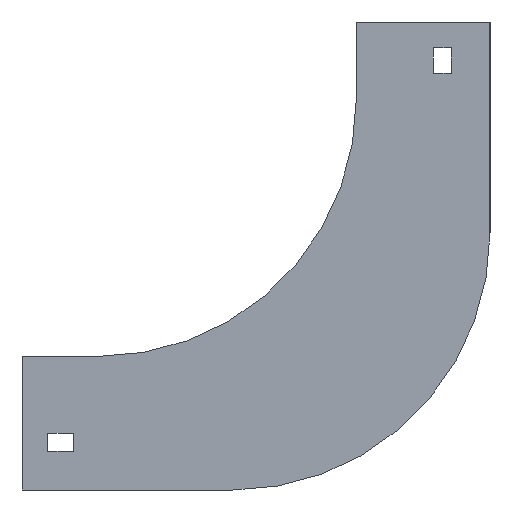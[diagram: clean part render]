
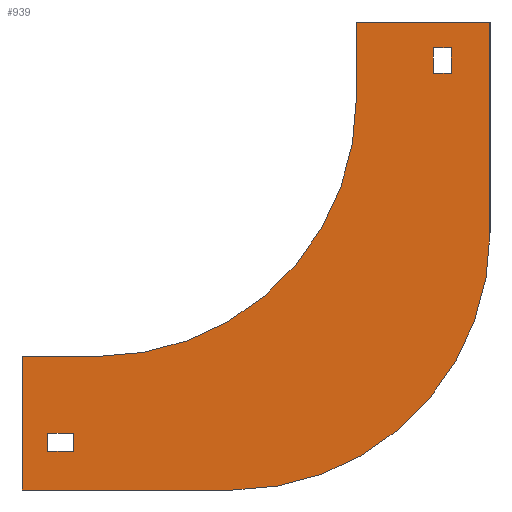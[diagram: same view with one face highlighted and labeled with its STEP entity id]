
A CAD part, left-side view. The second image highlights one B-rep face of the part: STEP entity #939.
In plain terms, the highlighted planar face has unit normal (-1, 0, 0).
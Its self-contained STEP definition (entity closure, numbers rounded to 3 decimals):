
#23 = LINE ( 'NONE', #329, #1182 ) ;
#72 = CARTESIAN_POINT ( 'NONE',  ( -202., -30., -10. ) ) ;
#74 = DIRECTION ( 'NONE',  ( 1., 0., 0. ) ) ;
#76 = EDGE_CURVE ( 'NONE', #1160, #289, #611, .T. ) ;
#78 = DIRECTION ( 'NONE',  ( 0., 0., 1. ) ) ;
#81 = LINE ( 'NONE', #1026, #822 ) ;
#89 = CARTESIAN_POINT ( 'NONE',  ( -202., 110., -160. ) ) ;
#100 = DIRECTION ( 'NONE',  ( 0., -1., 0. ) ) ;
#122 = CARTESIAN_POINT ( 'NONE',  ( -202., 100., -130. ) ) ;
#124 = DIRECTION ( 'NONE',  ( 0., 0., -1. ) ) ;
#132 = ORIENTED_EDGE ( 'NONE', *, *, #555, .F. ) ;
#137 = ORIENTED_EDGE ( 'NONE', *, *, #1293, .F. ) ;
#138 = VERTEX_POINT ( 'NONE', #1038 ) ;
#139 = CARTESIAN_POINT ( 'NONE',  ( -202., 120., -167. ) ) ;
#141 = EDGE_LOOP ( 'NONE', ( #212, #270, #778, #1104 ) ) ;
#159 = LINE ( 'NONE', #72, #258 ) ;
#165 = VERTEX_POINT ( 'NONE', #955 ) ;
#166 = VECTOR ( 'NONE', #100, 1000. ) ;
#178 = DIRECTION ( 'NONE',  ( 0., 1., 0. ) ) ;
#185 = CARTESIAN_POINT ( 'NONE',  ( -202., -30., -10. ) ) ;
#195 = DIRECTION ( 'NONE',  ( 0., 0., -1. ) ) ;
#196 = EDGE_CURVE ( 'NONE', #230, #973, #860, .T. ) ;
#209 = EDGE_CURVE ( 'NONE', #289, #1137, #1046, .T. ) ;
#212 = ORIENTED_EDGE ( 'NONE', *, *, #1199, .F. ) ;
#226 = VECTOR ( 'NONE', #1381, 1000. ) ;
#230 = VERTEX_POINT ( 'NONE', #89 ) ;
#232 = CARTESIAN_POINT ( 'NONE',  ( -202., -37., -20. ) ) ;
#238 = DIRECTION ( 'NONE',  ( 0., 0., 1. ) ) ;
#248 = CARTESIAN_POINT ( 'NONE',  ( -202., 110., -160. ) ) ;
#252 = LINE ( 'NONE', #248, #599 ) ;
#258 = VECTOR ( 'NONE', #1237, 1000. ) ;
#259 = ORIENTED_EDGE ( 'NONE', *, *, #638, .F. ) ;
#263 = LINE ( 'NONE', #1220, #361 ) ;
#264 = CIRCLE ( 'NONE', #650, 100. ) ;
#270 = ORIENTED_EDGE ( 'NONE', *, *, #196, .F. ) ;
#281 = CARTESIAN_POINT ( 'NONE',  ( -202., 0., -30. ) ) ;
#284 = CIRCLE ( 'NONE', #1018, 100. ) ;
#289 = VERTEX_POINT ( 'NONE', #527 ) ;
#299 = DIRECTION ( 'NONE',  ( 0., 0., -1. ) ) ;
#326 = VERTEX_POINT ( 'NONE', #1085 ) ;
#328 = VECTOR ( 'NONE', #195, 1000. ) ;
#329 = CARTESIAN_POINT ( 'NONE',  ( -202., 130., -130. ) ) ;
#361 = VECTOR ( 'NONE', #692, 1000. ) ;
#380 = CARTESIAN_POINT ( 'NONE',  ( -202., -30., -20. ) ) ;
#417 = EDGE_CURVE ( 'NONE', #326, #1064, #770, .T. ) ;
#456 = VECTOR ( 'NONE', #741, 1000. ) ;
#460 = ORIENTED_EDGE ( 'NONE', *, *, #76, .F. ) ;
#500 = EDGE_CURVE ( 'NONE', #165, #512, #264, .T. ) ;
#505 = FACE_BOUND ( 'NONE', #793, .T. ) ;
#512 = VERTEX_POINT ( 'NONE', #281 ) ;
#518 = FACE_BOUND ( 'NONE', #141, .T. ) ;
#520 = VECTOR ( 'NONE', #238, 1000. ) ;
#527 = CARTESIAN_POINT ( 'NONE',  ( -202., -52., 0. ) ) ;
#555 = EDGE_CURVE ( 'NONE', #512, #1160, #1210, .T. ) ;
#599 = VECTOR ( 'NONE', #700, 1000. ) ;
#610 = EDGE_CURVE ( 'NONE', #1174, #1087, #1321, .T. ) ;
#611 = LINE ( 'NONE', #696, #226 ) ;
#612 = CARTESIAN_POINT ( 'NONE',  ( -202., 48., -82. ) ) ;
#616 = DIRECTION ( 'NONE',  ( -1., 0., 0. ) ) ;
#638 = EDGE_CURVE ( 'NONE', #1087, #138, #23, .T. ) ;
#650 = AXIS2_PLACEMENT_3D ( 'NONE', #844, #616, #299 ) ;
#655 = EDGE_LOOP ( 'NONE', ( #460, #132, #1111, #978, #259, #1200, #137, #1149 ) ) ;
#662 = ORIENTED_EDGE ( 'NONE', *, *, #695, .T. ) ;
#668 = CARTESIAN_POINT ( 'NONE',  ( -202., 0., 0. ) ) ;
#692 = DIRECTION ( 'NONE',  ( 0., -1., 0. ) ) ;
#695 = EDGE_CURVE ( 'NONE', #898, #326, #263, .T. ) ;
#696 = CARTESIAN_POINT ( 'NONE',  ( -202., -52., 0. ) ) ;
#700 = DIRECTION ( 'NONE',  ( 0., 0., 1. ) ) ;
#710 = FACE_OUTER_BOUND ( 'NONE', #655, .T. ) ;
#712 = VECTOR ( 'NONE', #1177, 1000. ) ;
#715 = EDGE_CURVE ( 'NONE', #950, #230, #252, .T. ) ;
#741 = DIRECTION ( 'NONE',  ( 0., 1., 0. ) ) ;
#746 = LINE ( 'NONE', #122, #166 ) ;
#770 = LINE ( 'NONE', #1093, #803 ) ;
#778 = ORIENTED_EDGE ( 'NONE', *, *, #715, .F. ) ;
#786 = CARTESIAN_POINT ( 'NONE',  ( -202., -52., -82. ) ) ;
#793 = EDGE_LOOP ( 'NONE', ( #1103, #662, #958, #1318 ) ) ;
#795 = CARTESIAN_POINT ( 'NONE',  ( -202., 48., -182. ) ) ;
#803 = VECTOR ( 'NONE', #124, 1000. ) ;
#813 = EDGE_CURVE ( 'NONE', #1064, #1178, #1351, .T. ) ;
#822 = VECTOR ( 'NONE', #1035, 1000. ) ;
#826 = DIRECTION ( 'NONE',  ( 1., 0., 0. ) ) ;
#830 = CARTESIAN_POINT ( 'NONE',  ( -202., 110., -167. ) ) ;
#844 = CARTESIAN_POINT ( 'NONE',  ( -202., 100., -30. ) ) ;
#859 = DIRECTION ( 'NONE',  ( 0., 0., 1. ) ) ;
#860 = LINE ( 'NONE', #1388, #456 ) ;
#864 = CARTESIAN_POINT ( 'NONE',  ( -202., 120., -160. ) ) ;
#895 = LINE ( 'NONE', #1340, #1282 ) ;
#898 = VERTEX_POINT ( 'NONE', #185 ) ;
#900 = CARTESIAN_POINT ( 'NONE',  ( -202., -30., -20. ) ) ;
#920 = PLANE ( 'NONE',  #1209 ) ;
#923 = EDGE_CURVE ( 'NONE', #1167, #950, #81, .T. ) ;
#937 = DIRECTION ( 'NONE',  ( 0., 0., -1. ) ) ;
#939 = ADVANCED_FACE ( 'NONE', ( #710, #505, #518 ), #920, .F. ) ;
#946 = CARTESIAN_POINT ( 'NONE',  ( -202., -52., -82. ) ) ;
#950 = VERTEX_POINT ( 'NONE', #830 ) ;
#952 = CARTESIAN_POINT ( 'NONE',  ( -202., 0., 0. ) ) ;
#955 = CARTESIAN_POINT ( 'NONE',  ( -202., 100., -130. ) ) ;
#958 = ORIENTED_EDGE ( 'NONE', *, *, #417, .T. ) ;
#971 = EDGE_CURVE ( 'NONE', #138, #165, #746, .T. ) ;
#973 = VERTEX_POINT ( 'NONE', #864 ) ;
#978 = ORIENTED_EDGE ( 'NONE', *, *, #971, .F. ) ;
#980 = CARTESIAN_POINT ( 'NONE',  ( -202., 130., -182. ) ) ;
#1018 = AXIS2_PLACEMENT_3D ( 'NONE', #612, #826, #78 ) ;
#1026 = CARTESIAN_POINT ( 'NONE',  ( -202., 120., -167. ) ) ;
#1035 = DIRECTION ( 'NONE',  ( 0., -1., 0. ) ) ;
#1038 = CARTESIAN_POINT ( 'NONE',  ( -202., 130., -130. ) ) ;
#1046 = LINE ( 'NONE', #946, #328 ) ;
#1064 = VERTEX_POINT ( 'NONE', #232 ) ;
#1065 = CARTESIAN_POINT ( 'NONE',  ( -202., 130., -182. ) ) ;
#1085 = CARTESIAN_POINT ( 'NONE',  ( -202., -37., -10. ) ) ;
#1087 = VERTEX_POINT ( 'NONE', #1065 ) ;
#1093 = CARTESIAN_POINT ( 'NONE',  ( -202., -37., -10. ) ) ;
#1103 = ORIENTED_EDGE ( 'NONE', *, *, #1243, .T. ) ;
#1104 = ORIENTED_EDGE ( 'NONE', *, *, #923, .F. ) ;
#1111 = ORIENTED_EDGE ( 'NONE', *, *, #500, .F. ) ;
#1137 = VERTEX_POINT ( 'NONE', #786 ) ;
#1149 = ORIENTED_EDGE ( 'NONE', *, *, #209, .F. ) ;
#1160 = VERTEX_POINT ( 'NONE', #668 ) ;
#1167 = VERTEX_POINT ( 'NONE', #139 ) ;
#1174 = VERTEX_POINT ( 'NONE', #795 ) ;
#1177 = DIRECTION ( 'NONE',  ( 0., 1., 0. ) ) ;
#1178 = VERTEX_POINT ( 'NONE', #900 ) ;
#1182 = VECTOR ( 'NONE', #859, 1000. ) ;
#1199 = EDGE_CURVE ( 'NONE', #973, #1167, #895, .T. ) ;
#1200 = ORIENTED_EDGE ( 'NONE', *, *, #610, .F. ) ;
#1209 = AXIS2_PLACEMENT_3D ( 'NONE', #1369, #74, #937 ) ;
#1210 = LINE ( 'NONE', #952, #520 ) ;
#1220 = CARTESIAN_POINT ( 'NONE',  ( -202., -30., -10. ) ) ;
#1237 = DIRECTION ( 'NONE',  ( 0., 0., 1. ) ) ;
#1243 = EDGE_CURVE ( 'NONE', #1178, #898, #159, .T. ) ;
#1253 = VECTOR ( 'NONE', #178, 1000. ) ;
#1282 = VECTOR ( 'NONE', #1327, 1000. ) ;
#1293 = EDGE_CURVE ( 'NONE', #1137, #1174, #284, .T. ) ;
#1318 = ORIENTED_EDGE ( 'NONE', *, *, #813, .T. ) ;
#1321 = LINE ( 'NONE', #980, #712 ) ;
#1327 = DIRECTION ( 'NONE',  ( 0., 0., -1. ) ) ;
#1340 = CARTESIAN_POINT ( 'NONE',  ( -202., 120., -160. ) ) ;
#1351 = LINE ( 'NONE', #380, #1253 ) ;
#1369 = CARTESIAN_POINT ( 'NONE',  ( -202., 100., -30. ) ) ;
#1381 = DIRECTION ( 'NONE',  ( 0., -1., 0. ) ) ;
#1388 = CARTESIAN_POINT ( 'NONE',  ( -202., 120., -160. ) ) ;
